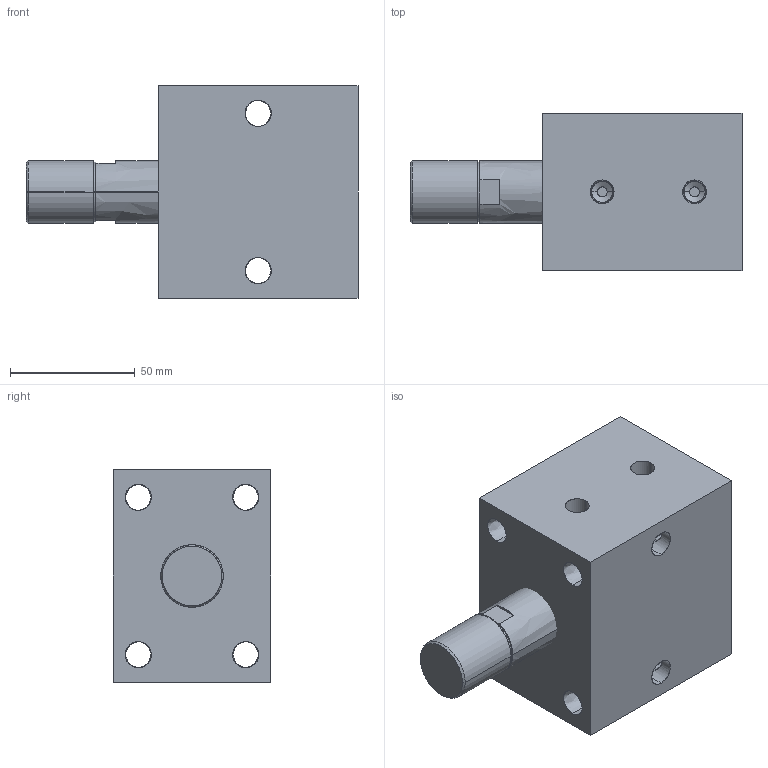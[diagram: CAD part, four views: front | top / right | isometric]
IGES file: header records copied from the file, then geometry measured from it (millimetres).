
Start section: SolidWorks IGES file using analytic representation for surfaces
Global section: file name: C:\Documents and Settings\rajib\Desktop\Rajib\BLOCK CYLINDER HYDRAULIC\0401-0406\IGS 0401-0406\0401.IGS; native system: SolidWorks 2007; preprocessor: SolidWorks 2007; author: rajib; date: 110121.101429; units: millimetre
Bounding box: 133 x 63 x 85 mm (x, y, z)
Surface area: 57063.9 mm2 (no closed solid volume)
Topology: 0 solids, 0 shells, 76 faces, 1704 edges, 1704 vertices
Faces by surface type: revolution 54, bspline 22
